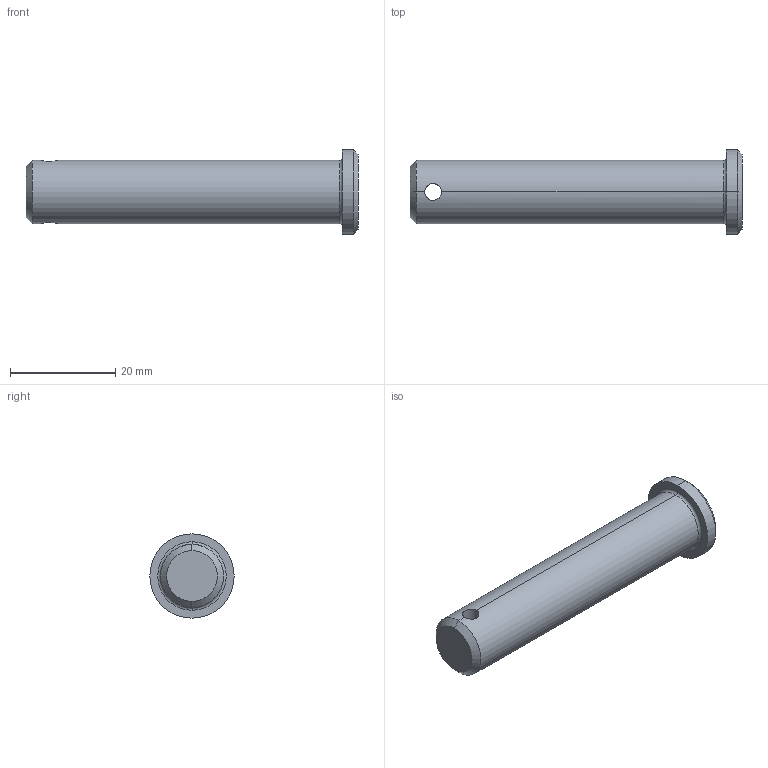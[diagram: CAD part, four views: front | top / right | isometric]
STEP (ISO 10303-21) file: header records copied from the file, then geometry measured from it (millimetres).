
FILE_DESCRIPTION (( 'STEP AP203' ), '1' );
FILE_NAME ('Wiberger-sms2360_12x60.step', '2012-10-09T08:57:43', ( 'Magnus' ), ( 'Wiberger' ), 'SwSTEP 2.0', 'SolidWorks 2011', '' );
FILE_SCHEMA (( 'CONFIG_CONTROL_DESIGN' ));
Length unit declared in the file: millimetre
Products named in the file (1): Wiberger-sms2360_12x60
Bounding box: 63 x 16 x 16 mm (x, y, z)
Volume: 7254.6 mm3; surface area: 2856.4 mm2
Topology: 1 solids, 1 shells, 15 faces, 32 edges, 18 vertices
Faces by surface type: cylinder 6, cone 4, plane 3, torus 2
Entity records: 579 total; most frequent: CARTESIAN_POINT 170, DIRECTION 76, ORIENTED_EDGE 64, AXIS2_PLACEMENT_3D 32, EDGE_CURVE 32, VERTEX_POINT 18, CIRCLE 16, EDGE_LOOP 16
